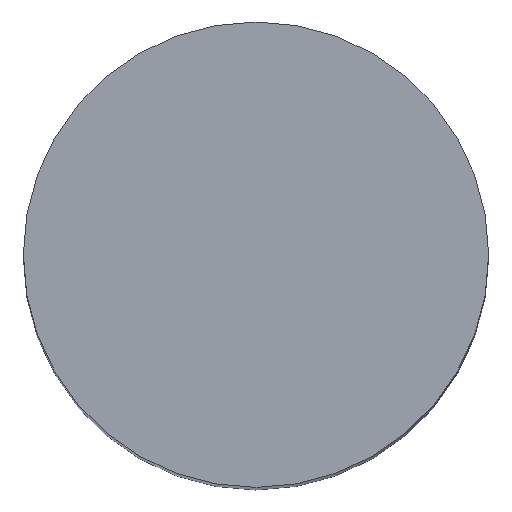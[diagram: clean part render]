
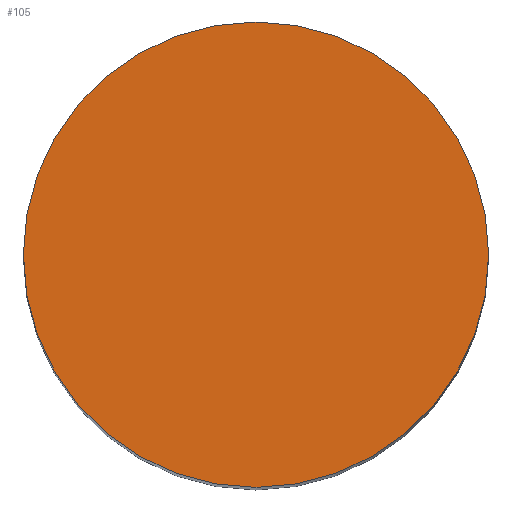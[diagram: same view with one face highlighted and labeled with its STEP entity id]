
A CAD part, top view. The second image highlights one B-rep face of the part: STEP entity #105.
In plain terms, the highlighted planar face has unit normal (0, 0, 1).
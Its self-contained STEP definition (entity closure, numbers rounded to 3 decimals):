
#21 = EDGE_CURVE('',#22,#22,#24,.T.);
#22 = VERTEX_POINT('',#23);
#23 = CARTESIAN_POINT('',(3.,0.,19.2));
#24 = SURFACE_CURVE('',#25,(#30,#42),.PCURVE_S1.);
#25 = CIRCLE('',#26,3.);
#26 = AXIS2_PLACEMENT_3D('',#27,#28,#29);
#27 = CARTESIAN_POINT('',(0.,0.,19.2));
#28 = DIRECTION('',(0.,0.,1.));
#29 = DIRECTION('',(1.,0.,-0.));
#30 = PCURVE('',#31,#36);
#31 = CYLINDRICAL_SURFACE('',#32,3.);
#32 = AXIS2_PLACEMENT_3D('',#33,#34,#35);
#33 = CARTESIAN_POINT('',(0.,0.,0.));
#34 = DIRECTION('',(0.,0.,1.));
#35 = DIRECTION('',(1.,0.,-0.));
#36 = DEFINITIONAL_REPRESENTATION('',(#37),#41);
#37 = LINE('',#38,#39);
#38 = CARTESIAN_POINT('',(0.,19.2));
#39 = VECTOR('',#40,1.);
#40 = DIRECTION('',(1.,0.));
#41 = ( GEOMETRIC_REPRESENTATION_CONTEXT(2) 
PARAMETRIC_REPRESENTATION_CONTEXT() REPRESENTATION_CONTEXT('2D SPACE',''
  ) );
#42 = PCURVE('',#43,#48);
#43 = PLANE('',#44);
#44 = AXIS2_PLACEMENT_3D('',#45,#46,#47);
#45 = CARTESIAN_POINT('',(0.,0.,19.2));
#46 = DIRECTION('',(0.,0.,1.));
#47 = DIRECTION('',(1.,0.,-0.));
#48 = DEFINITIONAL_REPRESENTATION('',(#49),#53);
#49 = CIRCLE('',#50,3.);
#50 = AXIS2_PLACEMENT_2D('',#51,#52);
#51 = CARTESIAN_POINT('',(0.,0.));
#52 = DIRECTION('',(1.,0.));
#53 = ( GEOMETRIC_REPRESENTATION_CONTEXT(2) 
PARAMETRIC_REPRESENTATION_CONTEXT() REPRESENTATION_CONTEXT('2D SPACE',''
  ) );
#105 = ADVANCED_FACE('',(#106),#43,.T.);
#106 = FACE_BOUND('',#107,.T.);
#107 = EDGE_LOOP('',(#108));
#108 = ORIENTED_EDGE('',*,*,#21,.T.);
